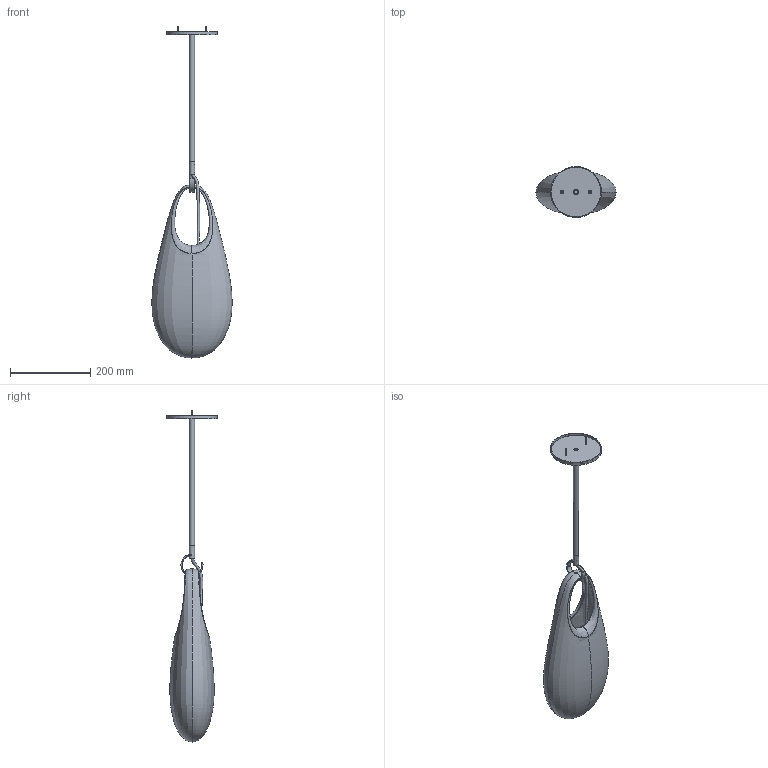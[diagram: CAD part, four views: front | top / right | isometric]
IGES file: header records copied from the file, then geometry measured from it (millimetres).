
Global section: file name: /Users/danielszollosi/Documents/SkLO/Sklo.com/3D models/WEB 3D Models/SkLO_Hold_18_Pendant_LT263_3D.igs; native system: Rhinoceros ( Sep 24 2023 ); preprocessor: Trout Lake IGES 012 Sep 24 2023; date: 241021.160038; units: millimetre
Bounding box: 199.99 x 126.82 x 827.71 mm (x, y, z)
Surface area: 368859 mm2 (no closed solid volume)
Topology: 0 solids, 0 shells, 555 faces, 8744 edges, 8679 vertices
Faces by surface type: bspline 555
